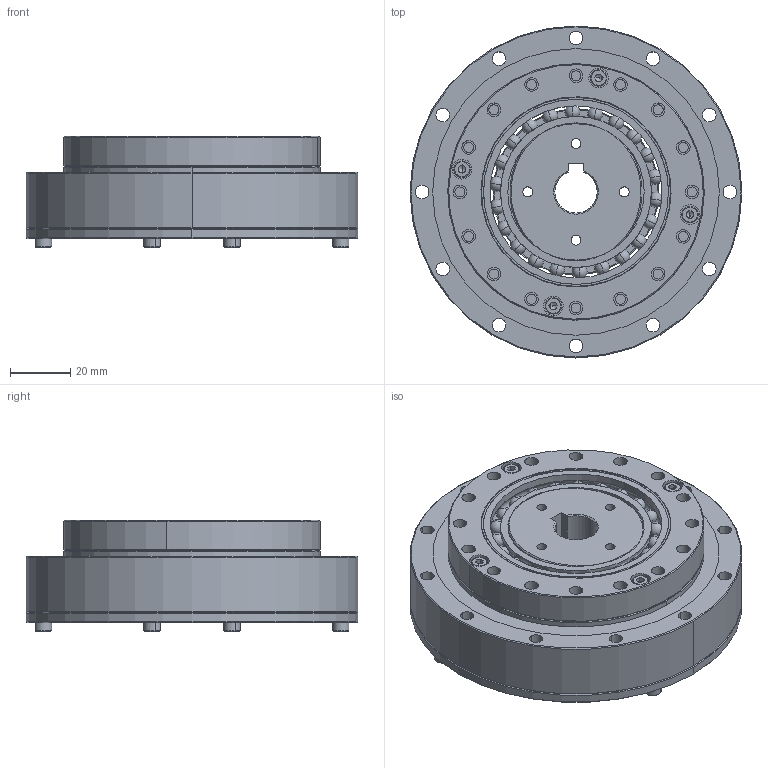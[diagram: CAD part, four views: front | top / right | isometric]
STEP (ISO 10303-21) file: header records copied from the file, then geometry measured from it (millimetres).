
FILE_DESCRIPTION (( 'STEP AP203' ), '1' );
FILE_NAME ('BHS-25-XXX-U-¢ñ.STEP', '2019-01-15T03:57:10', ( 'User' ), ( 'China' ), 'SwSTEP 2.0', 'SolidWorks 2015', '' );
FILE_SCHEMA (( 'CONFIG_CONTROL_DESIGN' ));
Length unit declared in the file: millimetre
Products named in the file (1): BHS-25-XXX-U-ｉ
Bounding box: 110 x 110 x 37 mm (x, y, z)
Surface area: 57096.8 mm2 (no closed solid volume)
Topology: 0 solids, 16 shells, 383 faces, 1289 edges, 839 vertices
Faces by surface type: cylinder 147, plane 86, cone 60, sphere 44, torus 42, bspline 4
Entity records: 15849 total; most frequent: CARTESIAN_POINT 5324, DIRECTION 2298, ORIENTED_EDGE 1954, EDGE_CURVE 1163, AXIS2_PLACEMENT_3D 944, VERTEX_POINT 773, CIRCLE 564, EDGE_LOOP 482
